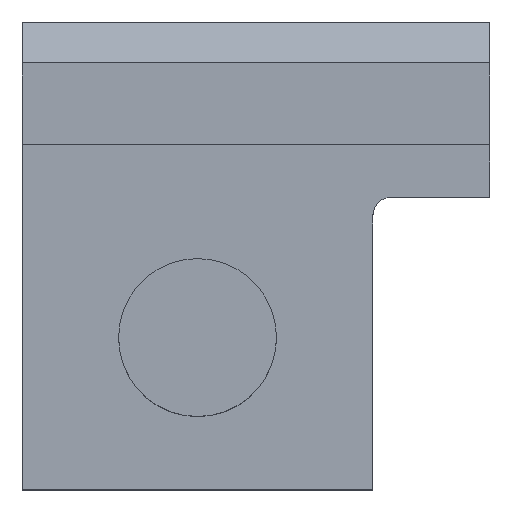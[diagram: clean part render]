
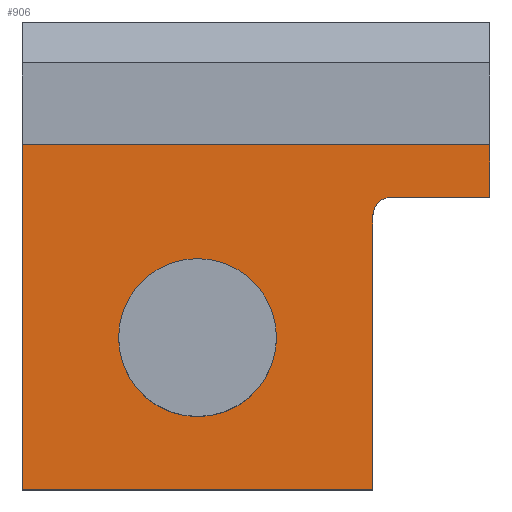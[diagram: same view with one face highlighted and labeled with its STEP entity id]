
A CAD part, top view. The second image highlights one B-rep face of the part: STEP entity #906.
In plain terms, the highlighted planar face has unit normal (0, 0, 1).
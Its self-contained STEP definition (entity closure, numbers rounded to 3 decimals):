
#29 = EDGE_CURVE ( 'NONE', #198, #821, #929, .T. ) ;
#34 = DIRECTION ( 'NONE',  ( 1., 0., 0. ) ) ;
#73 = DIRECTION ( 'NONE',  ( 1., 0., 0. ) ) ;
#90 = VERTEX_POINT ( 'NONE', #1039 ) ;
#93 = VECTOR ( 'NONE', #316, 1000. ) ;
#104 = VERTEX_POINT ( 'NONE', #337 ) ;
#115 = VECTOR ( 'NONE', #826, 1000. ) ;
#124 = CARTESIAN_POINT ( 'NONE',  ( -20., -20., 4. ) ) ;
#125 = EDGE_CURVE ( 'NONE', #821, #104, #771, .T. ) ;
#129 = LINE ( 'NONE', #124, #307 ) ;
#198 = VERTEX_POINT ( 'NONE', #984 ) ;
#208 = CARTESIAN_POINT ( 'NONE',  ( 20., 9.5, 4. ) ) ;
#211 = VERTEX_POINT ( 'NONE', #1056 ) ;
#218 = FACE_OUTER_BOUND ( 'NONE', #725, .T. ) ;
#227 = ORIENTED_EDGE ( 'NONE', *, *, #713, .F. ) ;
#235 = ORIENTED_EDGE ( 'NONE', *, *, #817, .F. ) ;
#260 = DIRECTION ( 'NONE',  ( 0., 0., 1. ) ) ;
#272 = CARTESIAN_POINT ( 'NONE',  ( 1.75, -7., 4. ) ) ;
#305 = DIRECTION ( 'NONE',  ( -1., 0., 0. ) ) ;
#307 = VECTOR ( 'NONE', #395, 1000. ) ;
#313 = DIRECTION ( 'NONE',  ( 1., 0., 0. ) ) ;
#314 = LINE ( 'NONE', #208, #581 ) ;
#316 = DIRECTION ( 'NONE',  ( -1., 0., 0. ) ) ;
#319 = CARTESIAN_POINT ( 'NONE',  ( 10., -20., 4. ) ) ;
#321 = ORIENTED_EDGE ( 'NONE', *, *, #29, .F. ) ;
#337 = CARTESIAN_POINT ( 'NONE',  ( 10., 3.5, 4. ) ) ;
#338 = ORIENTED_EDGE ( 'NONE', *, *, #354, .T. ) ;
#354 = EDGE_CURVE ( 'NONE', #535, #90, #314, .T. ) ;
#369 = CARTESIAN_POINT ( 'NONE',  ( -20., -20., 4. ) ) ;
#395 = DIRECTION ( 'NONE',  ( 0., 1., 0. ) ) ;
#468 = DIRECTION ( 'NONE',  ( 0., 0., 1. ) ) ;
#478 = CARTESIAN_POINT ( 'NONE',  ( 20., -20., 4. ) ) ;
#490 = ORIENTED_EDGE ( 'NONE', *, *, #125, .F. ) ;
#491 = LINE ( 'NONE', #478, #93 ) ;
#499 = DIRECTION ( 'NONE',  ( -1., 0., 0. ) ) ;
#535 = VERTEX_POINT ( 'NONE', #589 ) ;
#565 = PLANE ( 'NONE',  #790 ) ;
#581 = VECTOR ( 'NONE', #305, 1000. ) ;
#588 = VECTOR ( 'NONE', #499, 1000. ) ;
#589 = CARTESIAN_POINT ( 'NONE',  ( 20., 9.5, 4. ) ) ;
#611 = EDGE_CURVE ( 'NONE', #198, #535, #1133, .T. ) ;
#634 = ORIENTED_EDGE ( 'NONE', *, *, #611, .T. ) ;
#650 = FACE_BOUND ( 'NONE', #970, .T. ) ;
#655 = CARTESIAN_POINT ( 'NONE',  ( 20., -20., 4. ) ) ;
#668 = ORIENTED_EDGE ( 'NONE', *, *, #937, .F. ) ;
#672 = VERTEX_POINT ( 'NONE', #369 ) ;
#713 = EDGE_CURVE ( 'NONE', #104, #211, #1102, .T. ) ;
#725 = EDGE_LOOP ( 'NONE', ( #321, #634, #338, #668, #934, #227, #490 ) ) ;
#739 = CIRCLE ( 'NONE', #756, 6.75 ) ;
#756 = AXIS2_PLACEMENT_3D ( 'NONE', #819, #1094, #313 ) ;
#771 = CIRCLE ( 'NONE', #1125, 1.5 ) ;
#775 = VECTOR ( 'NONE', #866, 1000. ) ;
#778 = CARTESIAN_POINT ( 'NONE',  ( 11.5, 3.5, 4. ) ) ;
#790 = AXIS2_PLACEMENT_3D ( 'NONE', #655, #468, #34 ) ;
#817 = EDGE_CURVE ( 'NONE', #891, #891, #739, .T. ) ;
#819 = CARTESIAN_POINT ( 'NONE',  ( -5., -7., 4. ) ) ;
#821 = VERTEX_POINT ( 'NONE', #833 ) ;
#826 = DIRECTION ( 'NONE',  ( 0., -1., 0. ) ) ;
#833 = CARTESIAN_POINT ( 'NONE',  ( 11.5, 5., 4. ) ) ;
#838 = CARTESIAN_POINT ( 'NONE',  ( 20., 5., 4. ) ) ;
#866 = DIRECTION ( 'NONE',  ( 0., 1., 0. ) ) ;
#891 = VERTEX_POINT ( 'NONE', #272 ) ;
#906 = ADVANCED_FACE ( 'NONE', ( #650, #218 ), #565, .T. ) ;
#929 = LINE ( 'NONE', #838, #588 ) ;
#934 = ORIENTED_EDGE ( 'NONE', *, *, #945, .F. ) ;
#937 = EDGE_CURVE ( 'NONE', #672, #90, #129, .T. ) ;
#945 = EDGE_CURVE ( 'NONE', #211, #672, #491, .T. ) ;
#967 = CARTESIAN_POINT ( 'NONE',  ( 20., -20., 4. ) ) ;
#970 = EDGE_LOOP ( 'NONE', ( #235 ) ) ;
#984 = CARTESIAN_POINT ( 'NONE',  ( 20., 5., 4. ) ) ;
#1039 = CARTESIAN_POINT ( 'NONE',  ( -20., 9.5, 4. ) ) ;
#1056 = CARTESIAN_POINT ( 'NONE',  ( 10., -20., 4. ) ) ;
#1094 = DIRECTION ( 'NONE',  ( 0., 0., 1. ) ) ;
#1102 = LINE ( 'NONE', #319, #115 ) ;
#1125 = AXIS2_PLACEMENT_3D ( 'NONE', #778, #260, #73 ) ;
#1133 = LINE ( 'NONE', #967, #775 ) ;
